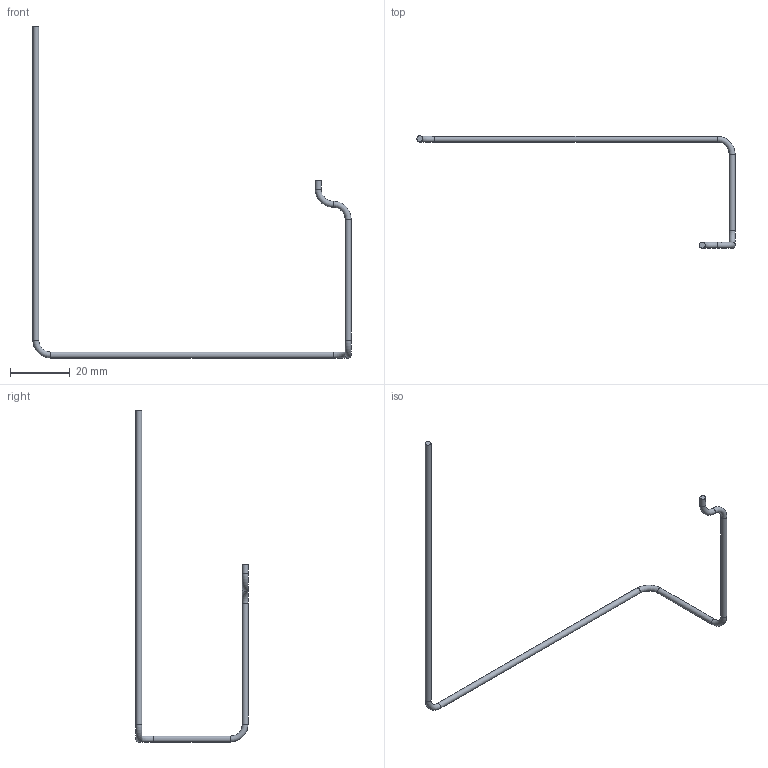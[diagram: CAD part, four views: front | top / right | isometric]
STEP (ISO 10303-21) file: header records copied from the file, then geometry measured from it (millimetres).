
FILE_DESCRIPTION(('Open CASCADE Model'),'2;1');
FILE_NAME('Open CASCADE Shape Model','2026-10-07T05:38:01',('Author'),( 'Open CASCADE'),'Open CASCADE STEP processor 7.7','Open CASCADE 7.7' ,'Unknown');
FILE_SCHEMA(('AUTOMOTIVE_DESIGN { 1 0 10303 214 1 1 1 1 }'));
Length unit declared in the file: millimetre
Products named in the file (1): Open CASCADE STEP translator 7.7 4
Bounding box: 106.4 x 37.51 x 111 mm (x, y, z)
Volume: 966.3 mm3; surface area: 1938.8 mm2
Topology: 1 solids, 1 shells, 12 faces, 21 edges, 11 vertices
Faces by surface type: cylinder 5, torus 5, plane 2
Full cylindrical faces by diameter (mm): 2 x5
Entity records: 553 total; most frequent: CARTESIAN_POINT 106, DIRECTION 86, ORIENTED_EDGE 42, PCURVE 42, DEFINITIONAL_REPRESENTATION 42, AXIS2_PLACEMENT_3D 29, LINE 26, VECTOR 26
